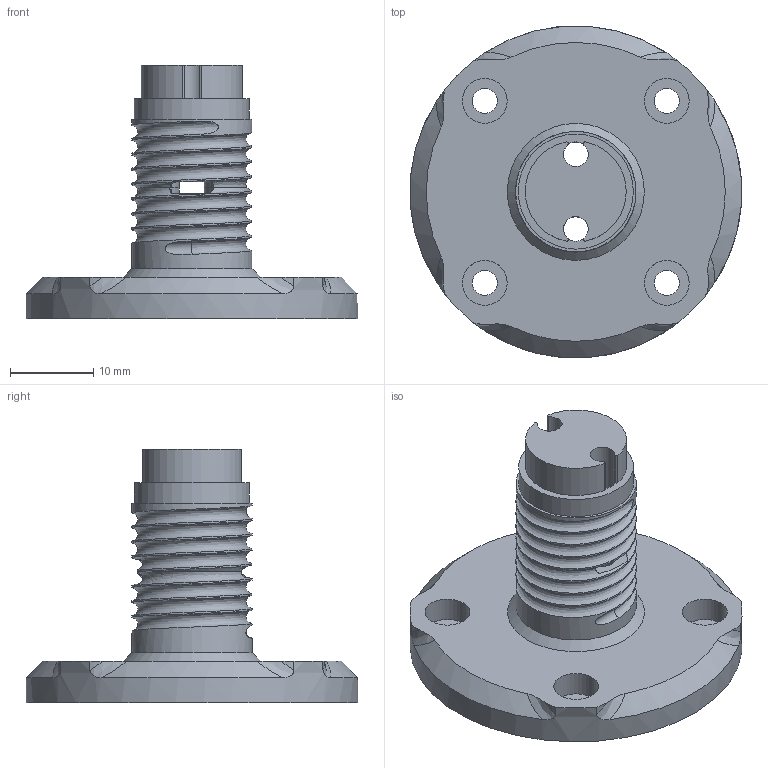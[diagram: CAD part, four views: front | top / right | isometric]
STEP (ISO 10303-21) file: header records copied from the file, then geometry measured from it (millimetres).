
FILE_DESCRIPTION(/* description */ ('CAx-IF Rec.Pracs.---Representation and Presentation of Product Manufacturing Information (PMI)---4.0---2014-10-13','CAx-IF Rec.Pracs.---3D Tessellated Geometry---0.4---2014-09-14','2;1'),/* implementation_level */ '2;1');
FILE_NAME(/* name */ 'qc1_p32_small_reel',/* time_stamp */ '2026-07-26T02:10:24+03:00',/* author */ (''),/* organization */ (''),/* preprocessor_version */ 'ST-DEVELOPER v19.4',/* originating_system */ 'SIEMENS PLM Software NX2306.1700',/* authorisation */ $);
FILE_SCHEMA (('AP242_MANAGED_MODEL_BASED_3D_ENGINEERING_MIM_LF { 1 0 10303 442 3 1 4 }'));
Length unit declared in the file: millimetre
Products named in the file (1): qc1_p32_small_reel
Bounding box: 39.95 x 39.97 x 30.5 mm (x, y, z)
Volume: 8680.5 mm3; surface area: 5450.5 mm2
Topology: 2 solids, 2 shells, 114 faces, 312 edges, 208 vertices
Faces by surface type: cylinder 63, plane 36, bspline 10, cone 5
Full cylindrical faces by diameter (mm): 2.99 x4, 3.01 x4, 3.9 x1, 5.4 x4, 13.86 x1, 14.5 x7, 40 x1
Entity records: 4836 total; most frequent: CARTESIAN_POINT 2256, ORIENTED_EDGE 532, DIRECTION 504, EDGE_CURVE 266, AXIS2_PLACEMENT_3D 211, VERTEX_POINT 187, EDGE_LOOP 147, FACE_BOUND 147
